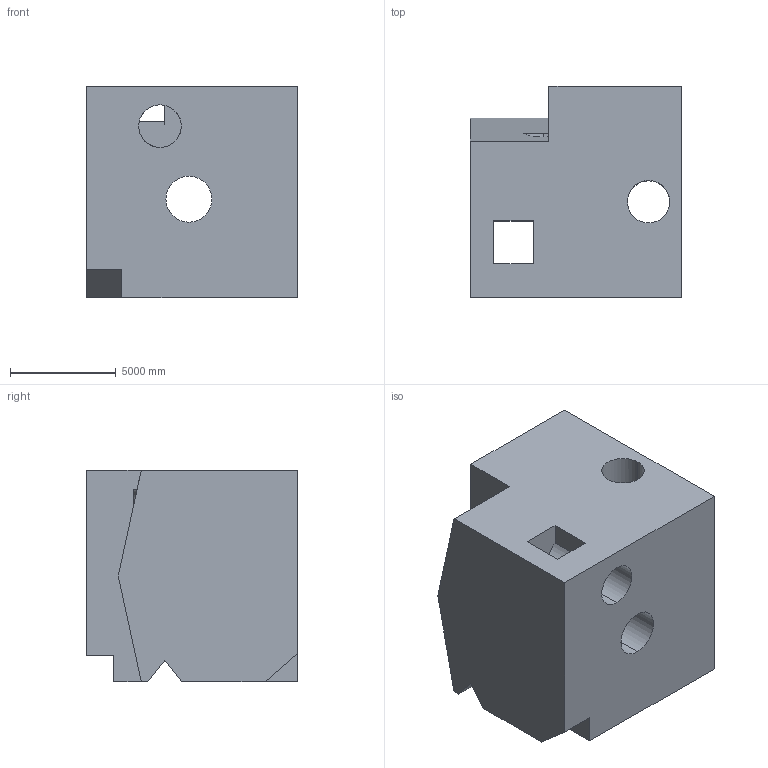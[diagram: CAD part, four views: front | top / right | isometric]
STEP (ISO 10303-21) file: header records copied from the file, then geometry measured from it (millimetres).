
FILE_DESCRIPTION (( 'STEP AP203' ), '1' );
FILE_NAME ('1871.STEP', '2022-08-19T13:45:40', ( 'user' ), ( '' ), 'SwSTEP 2.0', 'SolidWorks 2021', '' );
FILE_SCHEMA (( 'CONFIG_CONTROL_DESIGN' ));
Length unit declared in the file: centimetre
Products named in the file (1): 1871
Bounding box: 10000 x 10000 x 10000 mm (x, y, z)
Volume: 755607403798.7 mm3; surface area: 832350795.4 mm2
Topology: 1 solids, 1 shells, 32 faces, 99 edges, 66 vertices
Faces by surface type: plane 26, cylinder 6
Entity records: 1195 total; most frequent: CARTESIAN_POINT 207, ORIENTED_EDGE 198, DIRECTION 177, EDGE_CURVE 99, VECTOR 81, LINE 81, VERTEX_POINT 66, AXIS2_PLACEMENT_3D 48
